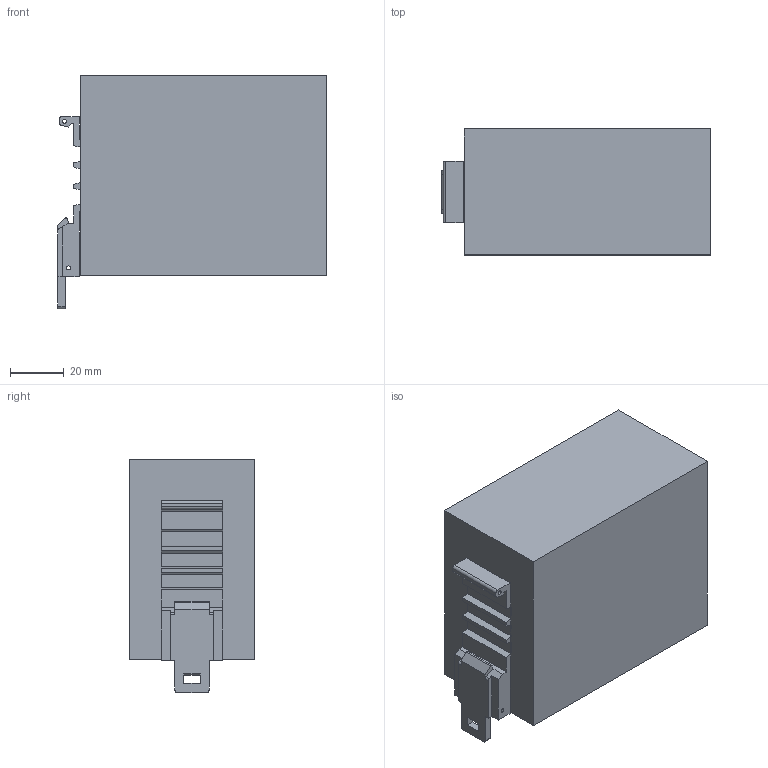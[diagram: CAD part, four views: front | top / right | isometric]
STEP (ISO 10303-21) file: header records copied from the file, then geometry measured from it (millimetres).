
FILE_DESCRIPTION(/* description */ ('Katalogmodell Elobau'),/* implementation_level */ '2;1');
FILE_NAME(/* name */ 'Katalogdaten.stp',/* time_stamp */ '2014-10-07T15:28:45+02:00',/* author */ ('Elobau GmbH & Co. KG'),/* organization */ ('Elobau GmbH & Co. KG'),/* preprocessor_version */ 'ST-DEVELOPER v15',/* originating_system */ 'SIEMENS PLM Software NX 8.5',/* authorisation */ '');
FILE_SCHEMA (('AUTOMOTIVE_DESIGN { 1 0 10303 214 3 1 1 1 }'));
Length unit declared in the file: millimetre
Products named in the file (1): 46212.E1._A
Bounding box: 100.35 x 47 x 87.25 mm (x, y, z)
Volume: 326558.3 mm3; surface area: 36778 mm2
Topology: 1 solids, 1 shells, 1117 faces, 3141 edges, 2107 vertices
Faces by surface type: plane 986, cylinder 131
Full cylindrical faces by diameter (mm): 1.5 x2, 3.5 x26
Entity records: 35902 total; most frequent: CARTESIAN_POINT 6336, ORIENTED_EDGE 6224, DIRECTION 5662, EDGE_CURVE 3112, LINE 2798, VECTOR 2798, VERTEX_POINT 2106, AXIS2_PLACEMENT_3D 1432
